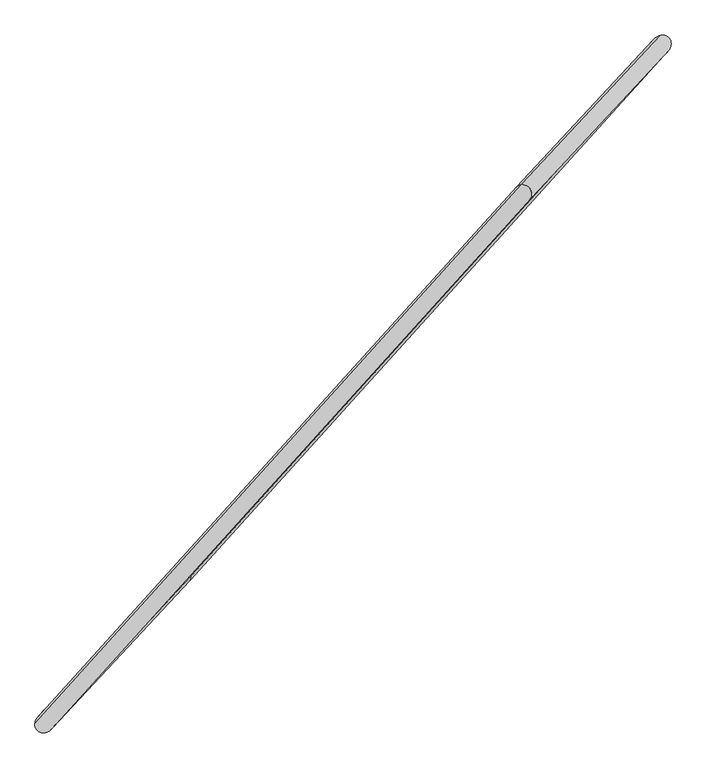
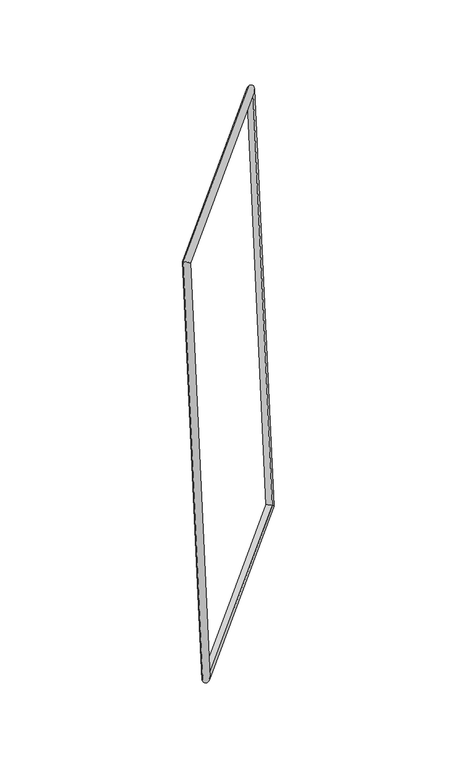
"""IFC4 building model written with IfcOpenShell, lengths in millimetres: proxy geometry, Família5 : Família5."""

from ifc_helpers import new_model, si_unit, frame, origin, place, context, project, spatial, ellipse_curve, source, transform, mapped, element, save
from ifc_brep_helpers import cylinder_surface, advanced_brep


def generic_models_c3ee8e33(model_context):
    return source(origin(), model_context, "Body", "AdvancedBrep", [
        advanced_brep(
        [(-1404.8977702, -1456.7658211, 26.8746028), (-1479.7074992, -1451.190013, -26.8746028), (641.254927, 897.0183875, -26.8746028), (643.3503424, 810.9374465, 26.8746028), (35.3848057, 246.1437949, 5761.4865709), (48.7034649, 172.1197684, 5708.0111643), (-2085.5776206, -2102.0646056, 5761.4865709), (-1999.5446477, -2095.5834992, 5708.0111643)],
        [
            (0, 1, ellipse_curve(frame((-1442.3026347, -1453.977917, 0.0), z_axis=(0.5097868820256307, 0.5621669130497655, -0.6512186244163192), x_axis=(-0.43520561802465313, -0.4844451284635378, -0.7588866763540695)), 52.7086519, 40.0)),
            (1, 2),
            (2, 3, ellipse_curve(frame((642.3026347, 853.977917, 0.0), z_axis=(-0.4352056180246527, -0.484445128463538, -0.7588866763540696), x_axis=(-0.5097868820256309, -0.5621669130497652, 0.6512186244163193)), 61.4231415, 40.0)),
            (3, 0),
            (1, 0, ellipse_curve(frame((-1442.3026347, -1453.977917, 0.0), z_axis=(0.5097868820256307, 0.5621669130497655, -0.6512186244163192), x_axis=(-0.43520561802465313, -0.4844451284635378, -0.7588866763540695)), 52.7086519, 40.0)),
            (3, 2, ellipse_curve(frame((642.3026347, 853.977917, 0.0), z_axis=(-0.4352056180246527, -0.484445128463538, -0.7588866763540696), x_axis=(-0.5097868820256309, -0.5621669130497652, 0.6512186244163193)), 61.4231415, 40.0)),
            (2, 4),
            (4, 5, ellipse_curve(frame((42.0441353, 209.1317816, 5734.7488676), z_axis=(0.5097868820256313, 0.5621669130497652, -0.6512186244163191), x_axis=(-0.4352056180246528, -0.48444512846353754, -0.7588866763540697)), 52.7086519, 40.0)),
            (5, 3),
            (5, 4, ellipse_curve(frame((42.0441353, 209.1317816, 5734.7488676), z_axis=(0.5097868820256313, 0.5621669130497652, -0.6512186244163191), x_axis=(-0.4352056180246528, -0.48444512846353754, -0.7588866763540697)), 52.7086519, 40.0)),
            (4, 6),
            (6, 7, ellipse_curve(frame((-2042.5611342, -2098.8240524, 5734.7488676), z_axis=(0.4352056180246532, 0.4844451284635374, 0.7588866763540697), x_axis=(0.5097868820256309, 0.5621669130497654, -0.6512186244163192)), 61.4231415, 40.0)),
            (7, 5),
            (7, 6, ellipse_curve(frame((-2042.5611342, -2098.8240524, 5734.7488676), z_axis=(0.4352056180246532, 0.4844451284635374, 0.7588866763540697), x_axis=(0.5097868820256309, 0.5621669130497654, -0.6512186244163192)), 61.4231415, 40.0)),
            (6, 1),
            (0, 7),
        ],
        [
            cylinder_surface(frame((-1442.3026347, -1453.977917, 0.0), z_axis=(-0.6702862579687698, -0.7421026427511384, 0.0), x_axis=(-0.49859284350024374, 0.45034192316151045, 0.7406735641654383)), 40.0),
            cylinder_surface(frame((642.3026347, 853.977917, 0.0), z_axis=(0.10345674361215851, 0.11114158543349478, -0.9884049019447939), x_axis=(-0.9888631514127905, -0.09539795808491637, -0.11423177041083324)), 40.0),
            cylinder_surface(frame((42.0441353, 209.1317816, 5734.7488676), z_axis=(0.6702862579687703, 0.7421026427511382, 0.0), x_axis=(-0.4960530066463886, 0.44804787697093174, -0.7437637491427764)), 40.0),
            cylinder_surface(frame((-2042.5611342, -2098.8240524, 5734.7488676), z_axis=(-0.1034567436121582, -0.11114158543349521, 0.9884049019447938), x_axis=(-0.005782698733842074, 0.9937877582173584, 0.11114158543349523)), 40.0),
        ],
        [
            (0, [[1, 2, 3, 4]]),
            (0, [[5, -4, 6, -2]]),
            (1, [[-3, 7, 8, 9]]),
            (1, [[-6, -9, 10, -7]]),
            (2, [[-8, 11, 12, 13]]),
            (2, [[-10, -13, 14, -11]]),
            (3, [[-12, 15, -1, 16]]),
            (3, [[-14, -16, -5, -15]]),
        ],
    ),
    ])


if __name__ == "__main__":
    model = new_model("IFC4")
    model_context = context("Model", 3, world=origin())
    ifc_project = project(units=[si_unit("LENGTHUNIT", "METRE", prefix="MILLI")], contexts=[model_context])
    site = spatial("IfcSite", under=ifc_project)
    building = spatial("IfcBuilding", under=site)
    placement = place(None, origin())
    generic_models_shape = generic_models_c3ee8e33(model_context)
    element("IfcBuildingElementProxy", 1, Name="Família5 : Família5", ObjectType="Família5 : Família5", at=placement, inside=building, context=model_context, shape_type="MappedRepresentation", body=[
        mapped(generic_models_shape, transform((0.0, 0.0, 0.0), x_axis=(1.0, 0.0, 0.0), y_axis=(0.0, 1.0, 0.0), z_axis=(0.0, 0.0, 1.0))),
    ])
    save(model, "model.ifc")
